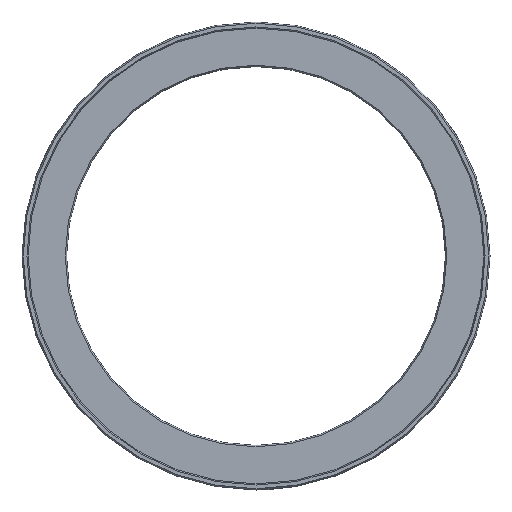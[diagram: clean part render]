
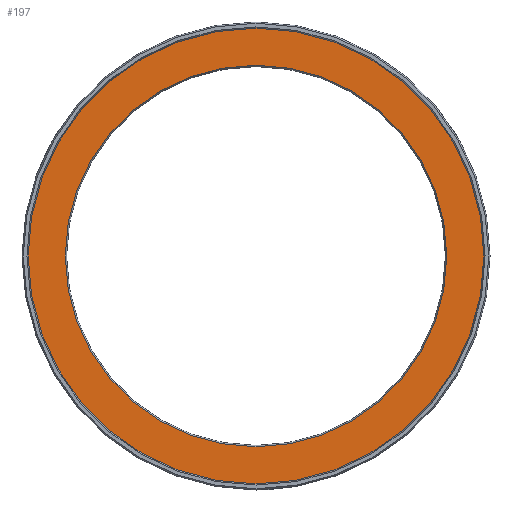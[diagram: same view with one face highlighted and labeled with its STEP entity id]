
A CAD part, left-side view. The second image highlights one B-rep face of the part: STEP entity #197.
In plain terms, the highlighted planar face has unit normal (-1, 0, 0).
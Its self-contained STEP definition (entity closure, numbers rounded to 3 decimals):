
#163=PLANE('',#797);
#197=ADVANCED_FACE('',(#265,#266),#163,.T.);
#265=FACE_BOUND('',#316,.T.);
#266=FACE_BOUND('',#317,.T.);
#316=EDGE_LOOP('',(#471));
#317=EDGE_LOOP('',(#472));
#471=ORIENTED_EDGE('',*,*,#652,.T.);
#472=ORIENTED_EDGE('',*,*,#651,.F.);
#569=VERTEX_POINT('',#1259);
#570=VERTEX_POINT('',#1262);
#651=EDGE_CURVE('',#569,#569,#709,.T.);
#652=EDGE_CURVE('',#570,#570,#710,.T.);
#709=CIRCLE('',#794,102.25);
#710=CIRCLE('',#796,85.577);
#794=AXIS2_PLACEMENT_3D('',#1258,#975,#976);
#796=AXIS2_PLACEMENT_3D('',#1261,#979,#980);
#797=AXIS2_PLACEMENT_3D('',#1263,#981,#982);
#975=DIRECTION('',(1.,0.,0.));
#976=DIRECTION('',(0.,0.,-1.));
#979=DIRECTION('',(1.,0.,0.));
#980=DIRECTION('',(0.,0.,1.));
#981=DIRECTION('',(-1.,0.,0.));
#982=DIRECTION('',(0.,0.,1.));
#1258=CARTESIAN_POINT('',(0.,0.,0.));
#1259=CARTESIAN_POINT('',(0.,0.,-102.25));
#1261=CARTESIAN_POINT('',(0.,0.,0.));
#1262=CARTESIAN_POINT('',(0.,0.,85.577));
#1263=CARTESIAN_POINT('',(0.,102.25,0.));
